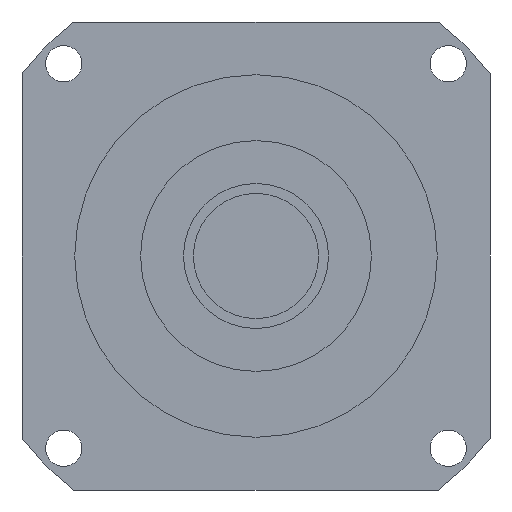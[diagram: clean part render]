
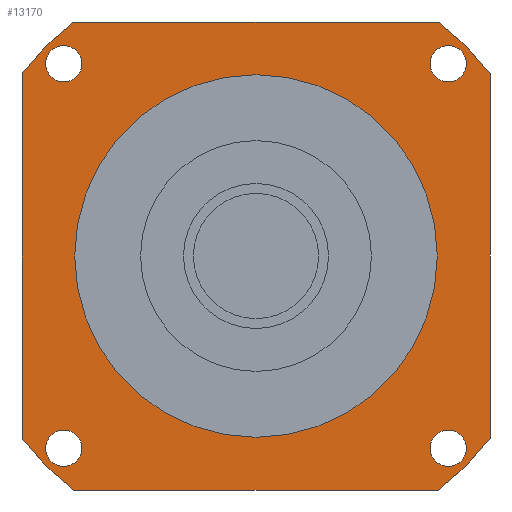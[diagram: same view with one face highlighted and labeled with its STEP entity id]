
A CAD part, left-side view. The second image highlights one B-rep face of the part: STEP entity #13170.
In plain terms, the highlighted planar face has unit normal (-1, 0, 0) as drawn and (0, 0, -1) by its records, which use the part's own axes.
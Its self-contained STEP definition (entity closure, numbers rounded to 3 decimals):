
#10190=CARTESIAN_POINT('',(-55.308,71.,-84.7));
#10200=VERTEX_POINT('',#10190);
#10380=CARTESIAN_POINT('',(-71.,55.308,-84.7));
#10390=VERTEX_POINT('',#10380);
#10420=CARTESIAN_POINT('',(0.,0.,
-84.7));
#10430=DIRECTION('',(0.,0.,-1.));
#10440=DIRECTION('',(1.,0.,0.));
#10450=AXIS2_PLACEMENT_3D('',#10420,#10430,#10440);
#10460=CIRCLE('',#10450,90.);
#10470=EDGE_CURVE('',#10390,#10200,#10460,.T.);
#10610=CARTESIAN_POINT('',(71.,55.308,-84.7));
#10620=VERTEX_POINT('',#10610);
#10670=CARTESIAN_POINT('',(71.,71.,-84.7));
#10680=DIRECTION('',(0.,-1.,0.));
#10690=VECTOR('',#10680,1000.);
#10700=LINE('',#10670,#10690);
#10710=CARTESIAN_POINT('',(71.,-55.308,-84.7));
#10720=VERTEX_POINT('',#10710);
#10730=EDGE_CURVE('',#10620,#10720,#10700,.T.);
#11670=CARTESIAN_POINT('',(55.,0.,-84.7));
#11680=VERTEX_POINT('',#11670);
#11710=CARTESIAN_POINT('',(0.,0.,
-84.7));
#11720=DIRECTION('',(0.,0.,1.));
#11730=DIRECTION('',(0.,1.,0.));
#11740=AXIS2_PLACEMENT_3D('',#11710,#11720,#11730);
#11750=CIRCLE('',#11740,55.);
#11760=CARTESIAN_POINT('',(0.,55.,-84.7));
#11770=VERTEX_POINT('',#11760);
#11780=EDGE_CURVE('',#11680,#11770,#11750,.T.);
#11800=CARTESIAN_POINT('',(-55.,0.,-84.7));
#11810=VERTEX_POINT('',#11800);
#11820=EDGE_CURVE('',#11770,#11810,#11750,.T.);
#11950=CARTESIAN_POINT('',(71.,71.,-84.7));
#11960=DIRECTION('',(0.,0.,-1.));
#11970=DIRECTION('',(1.,0.,0.));
#11980=AXIS2_PLACEMENT_3D('',#11950,#11960,#11970);
#11990=PLANE('',#11980);
#12000=CARTESIAN_POINT('',(-58.336,-58.336,-84.7));
#12010=DIRECTION('',(0.,0.,-1.));
#12020=DIRECTION('',(0.,-1.,0.));
#12030=AXIS2_PLACEMENT_3D('',#12000,#12010,#12020);
#12040=CIRCLE('',#12030,5.5);
#12050=CARTESIAN_POINT('',(-58.336,-63.836,-84.7));
#12060=VERTEX_POINT('',#12050);
#12070=CARTESIAN_POINT('',(-58.336,-52.836,-84.7));
#12080=VERTEX_POINT('',#12070);
#12090=EDGE_CURVE('',#12060,#12080,#12040,.T.);
#12100=ORIENTED_EDGE('',*,*,#12090,.F.);
#12110=EDGE_CURVE('',#12080,#12060,#12040,.T.);
#12120=ORIENTED_EDGE('',*,*,#12110,.F.);
#12130=EDGE_LOOP('',(#12120,#12100));
#12140=FACE_BOUND('',#12130,.T.);
#12150=CARTESIAN_POINT('',(-58.336,58.336,-84.7));
#12160=DIRECTION('',(0.,0.,-1.));
#12170=DIRECTION('',(-1.,0.,0.));
#12180=AXIS2_PLACEMENT_3D('',#12150,#12160,#12170);
#12190=CIRCLE('',#12180,5.5);
#12200=CARTESIAN_POINT('',(-63.836,58.336,-84.7));
#12210=VERTEX_POINT('',#12200);
#12220=CARTESIAN_POINT('',(-52.836,58.336,-84.7));
#12230=VERTEX_POINT('',#12220);
#12240=EDGE_CURVE('',#12210,#12230,#12190,.T.);
#12250=ORIENTED_EDGE('',*,*,#12240,.F.);
#12260=EDGE_CURVE('',#12230,#12210,#12190,.T.);
#12270=ORIENTED_EDGE('',*,*,#12260,.F.);
#12280=EDGE_LOOP('',(#12270,#12250));
#12290=FACE_BOUND('',#12280,.T.);
#12300=CARTESIAN_POINT('',(58.336,58.336,-84.7));
#12310=DIRECTION('',(0.,0.,-1.));
#12320=DIRECTION('',(0.,1.,0.));
#12330=AXIS2_PLACEMENT_3D('',#12300,#12310,#12320);
#12340=CIRCLE('',#12330,5.5);
#12350=CARTESIAN_POINT('',(58.336,63.836,-84.7));
#12360=VERTEX_POINT('',#12350);
#12370=CARTESIAN_POINT('',(58.336,52.836,-84.7));
#12380=VERTEX_POINT('',#12370);
#12390=EDGE_CURVE('',#12360,#12380,#12340,.T.);
#12400=ORIENTED_EDGE('',*,*,#12390,.F.);
#12410=EDGE_CURVE('',#12380,#12360,#12340,.T.);
#12420=ORIENTED_EDGE('',*,*,#12410,.F.);
#12430=EDGE_LOOP('',(#12420,#12400));
#12440=FACE_BOUND('',#12430,.T.);
#12450=EDGE_CURVE('',#11810,#11680,#11750,.T.);
#12460=ORIENTED_EDGE('',*,*,#12450,.T.);
#12470=ORIENTED_EDGE('',*,*,#11820,.T.);
#12480=ORIENTED_EDGE('',*,*,#11780,.T.);
#12490=EDGE_LOOP('',(#12480,#12470,#12460));
#12500=FACE_BOUND('',#12490,.T.);
#12510=CARTESIAN_POINT('',(-71.,71.,-84.7));
#12520=DIRECTION('',(1.,0.,0.));
#12530=VECTOR('',#12520,1000.);
#12540=LINE('',#12510,#12530);
#12550=CARTESIAN_POINT('',(55.308,71.,-84.7));
#12560=VERTEX_POINT('',#12550);
#12570=EDGE_CURVE('',#10200,#12560,#12540,.T.);
#12580=ORIENTED_EDGE('',*,*,#12570,.T.);
#12590=ORIENTED_EDGE('',*,*,#10470,.T.);
#12600=CARTESIAN_POINT('',(-71.,-71.,-84.7));
#12610=DIRECTION('',(0.,1.,0.));
#12620=VECTOR('',#12610,1000.);
#12630=LINE('',#12600,#12620);
#12640=CARTESIAN_POINT('',(-71.,-55.308,-84.7));
#12650=VERTEX_POINT('',#12640);
#12660=EDGE_CURVE('',#12650,#10390,#12630,.T.);
#12670=ORIENTED_EDGE('',*,*,#12660,.T.);
#12680=CARTESIAN_POINT('',(0.,0.,
-84.7));
#12690=DIRECTION('',(0.,0.,-1.));
#12700=DIRECTION('',(1.,0.,0.));
#12710=AXIS2_PLACEMENT_3D('',#12680,#12690,#12700);
#12720=CIRCLE('',#12710,90.);
#12730=CARTESIAN_POINT('',(-55.308,-71.,-84.7));
#12740=VERTEX_POINT('',#12730);
#12750=EDGE_CURVE('',#12740,#12650,#12720,.T.);
#12760=ORIENTED_EDGE('',*,*,#12750,.T.);
#12770=CARTESIAN_POINT('',(71.,-71.,-84.7));
#12780=DIRECTION('',(-1.,0.,0.));
#12790=VECTOR('',#12780,1000.);
#12800=LINE('',#12770,#12790);
#12810=CARTESIAN_POINT('',(55.308,-71.,-84.7));
#12820=VERTEX_POINT('',#12810);
#12830=EDGE_CURVE('',#12820,#12740,#12800,.T.);
#12840=ORIENTED_EDGE('',*,*,#12830,.T.);
#12850=CARTESIAN_POINT('',(0.,0.,
-84.7));
#12860=DIRECTION('',(0.,0.,-1.));
#12870=DIRECTION('',(1.,0.,0.));
#12880=AXIS2_PLACEMENT_3D('',#12850,#12860,#12870);
#12890=CIRCLE('',#12880,90.);
#12900=EDGE_CURVE('',#10720,#12820,#12890,.T.);
#12910=ORIENTED_EDGE('',*,*,#12900,.T.);
#12920=ORIENTED_EDGE('',*,*,#10730,.T.);
#12930=CARTESIAN_POINT('',(0.,0.,
-84.7));
#12940=DIRECTION('',(0.,0.,-1.));
#12950=DIRECTION('',(1.,0.,0.));
#12960=AXIS2_PLACEMENT_3D('',#12930,#12940,#12950);
#12970=CIRCLE('',#12960,90.);
#12980=EDGE_CURVE('',#12560,#10620,#12970,.T.);
#12990=ORIENTED_EDGE('',*,*,#12980,.T.);
#13000=EDGE_LOOP('',(#12990,#12920,#12910,#12840,#12760,#12670,#12590,
#12580));
#13010=FACE_OUTER_BOUND('',#13000,.T.);
#13020=CARTESIAN_POINT('',(58.336,-58.336,-84.7));
#13030=DIRECTION('',(0.,0.,-1.));
#13040=DIRECTION('',(1.,0.,0.));
#13050=AXIS2_PLACEMENT_3D('',#13020,#13030,#13040);
#13060=CIRCLE('',#13050,5.5);
#13070=CARTESIAN_POINT('',(63.836,-58.336,-84.7));
#13080=VERTEX_POINT('',#13070);
#13090=CARTESIAN_POINT('',(52.836,-58.336,-84.7));
#13100=VERTEX_POINT('',#13090);
#13110=EDGE_CURVE('',#13080,#13100,#13060,.T.);
#13120=ORIENTED_EDGE('',*,*,#13110,.F.);
#13130=EDGE_CURVE('',#13100,#13080,#13060,.T.);
#13140=ORIENTED_EDGE('',*,*,#13130,.F.);
#13150=EDGE_LOOP('',(#13140,#13120));
#13160=FACE_BOUND('',#13150,.T.);
#13170=ADVANCED_FACE('',(#12140,#12290,#12440,#12500,#13010,#13160),
#11990,.T.);
